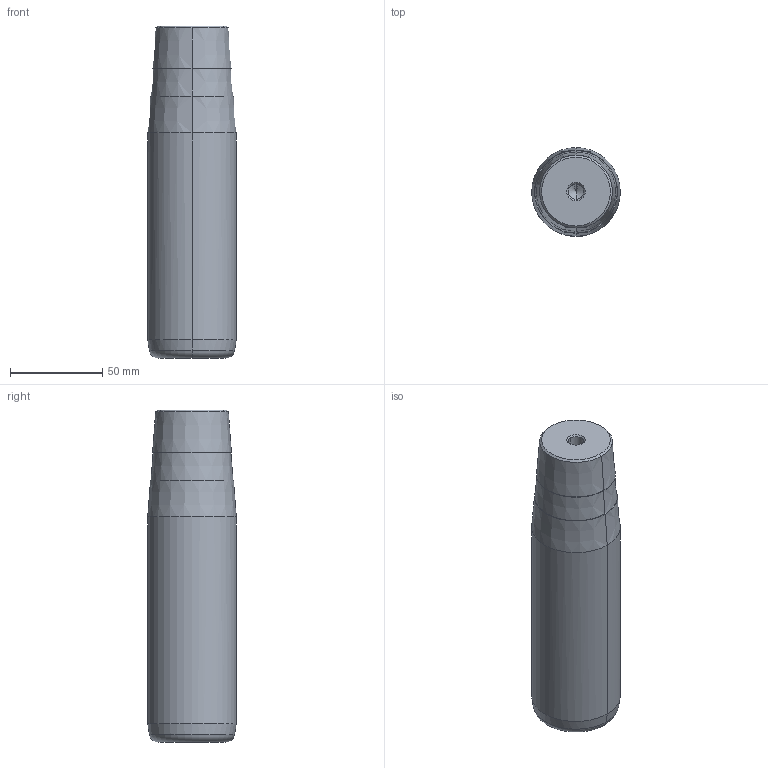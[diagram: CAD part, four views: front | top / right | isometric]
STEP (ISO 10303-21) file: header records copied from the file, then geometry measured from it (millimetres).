
FILE_DESCRIPTION(('CATIA V5 STEP Exchange'),'2;1');
FILE_NAME('C:\Users\Utente\Desktop\IO LAVORO\3D X SITO CF\X SITO\722\722-48x140x180.stp','2021-01-08T15:05:46+00:00',('none'),('none'),'CATIA Version 5 Release 20 GA (IN-10)','CATIA V5 STEP AP203','none');
FILE_SCHEMA(('CONFIG_CONTROL_DESIGN'));
Length unit declared in the file: millimetre
Products named in the file (1): 722-48x140x180
Bounding box: 48 x 48 x 180 mm (x, y, z)
Volume: 302892.5 mm3; surface area: 30278.2 mm2
Topology: 1 solids, 1 shells, 32 faces, 98 edges, 66 vertices
Faces by surface type: cone 22, cylinder 6, plane 2, torus 2
Entity records: 1166 total; most frequent: CARTESIAN_POINT 279, ORIENTED_EDGE 188, DIRECTION 148, EDGE_CURVE 94, AXIS2_PLACEMENT_3D 89, VERTEX_POINT 66, CIRCLE 56, EDGE_LOOP 34
